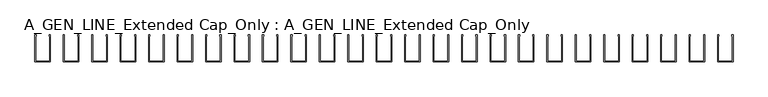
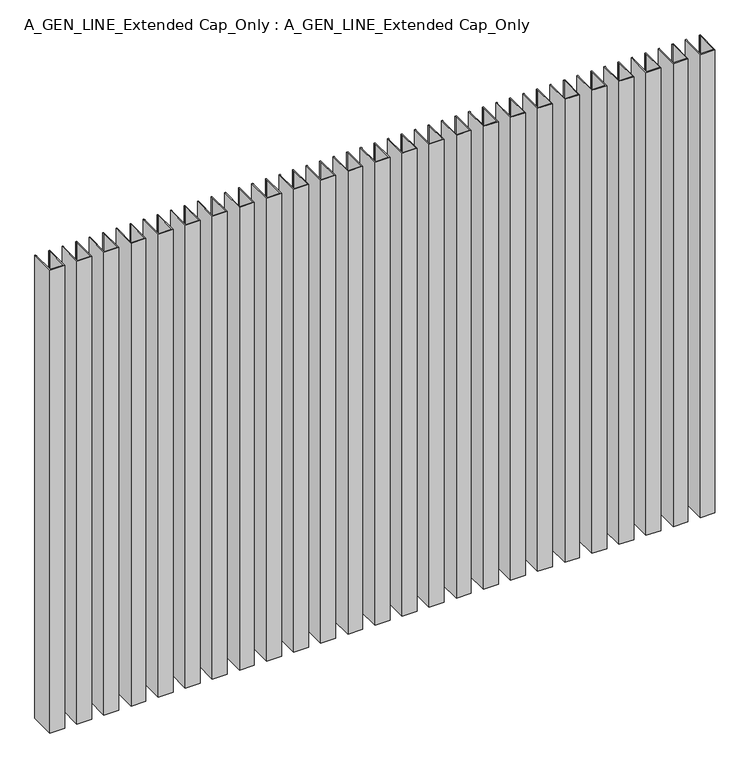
"""IFC4 building model written with IfcOpenShell, lengths in millimetres: proxy geometry, A_GEN_LINE_Extended Cap_Only : A_GEN_LINE_Extended Cap_Only."""

from ifc_helpers import new_model, si_unit, origin, origin_with_axes, place, context, project, spatial, polyline, outline, extrude, source, transform, mapped, element, save


def a_gen_line_extended_cap_only_a_gen_line_extended_cap_only_e9d753a0(model_context):
    return source(origin(), model_context, "Body", "SweptSolid", [
        extrude(outline(polyline([(1319.5969572, -58.2007192), (1319.5969572, -6.1), (1321.7459642, -6.1), (1321.7459642, -8.3419727), (1320.9969572, -8.5826662), (1320.9969572, -56.8007192), (1348.1969572, -56.8007192), (1348.1969572, -8.5826662), (1347.4479503, -8.3419727), (1347.4479503, -6.1), (1349.5969572, -6.1), (1349.5969572, -58.2007192), (1319.5969572, -58.2007192)])), origin_with_axes(), (0.0, 0.0, 1.0), 992.5516144),
        extrude(outline(polyline([(1264.5964579, -58.2007192), (1264.5964579, -6.1), (1266.7454648, -6.1), (1266.7454648, -8.3419727), (1265.9964579, -8.5826662), (1265.9964579, -56.8007192), (1293.1964579, -56.8007192), (1293.1964579, -8.5826662), (1292.4474509, -8.3419727), (1292.4474509, -6.1), (1294.5964579, -6.1), (1294.5964579, -58.2007192), (1264.5964579, -58.2007192)])), origin_with_axes(), (0.0, 0.0, 1.0), 992.5516144),
        extrude(outline(polyline([(1209.5959585, -58.2007192), (1209.5959585, -6.1), (1211.7449654, -6.1), (1211.7449654, -8.3419727), (1210.9959585, -8.5826662), (1210.9959585, -56.8007192), (1238.1959585, -56.8007192), (1238.1959585, -8.5826662), (1237.4469515, -8.3419727), (1237.4469515, -6.1), (1239.5959585, -6.1), (1239.5959585, -58.2007192), (1209.5959585, -58.2007192)])), origin_with_axes(), (0.0, 0.0, 1.0), 992.5516144),
        extrude(outline(polyline([(1154.5954591, -58.2007192), (1154.5954591, -6.1), (1156.744466, -6.1), (1156.744466, -8.3419727), (1155.9954591, -8.5826662), (1155.9954591, -56.8007192), (1183.1954591, -56.8007192), (1183.1954591, -8.5826662), (1182.4464521, -8.3419727), (1182.4464521, -6.1), (1184.5954591, -6.1), (1184.5954591, -58.2007192), (1154.5954591, -58.2007192)])), origin_with_axes(), (0.0, 0.0, 1.0), 992.5516144),
        extrude(outline(polyline([(1099.5949597, -58.2007192), (1099.5949597, -6.1), (1101.7439666, -6.1), (1101.7439666, -8.3419727), (1100.9949597, -8.5826662), (1100.9949597, -56.8007192), (1128.1949597, -56.8007192), (1128.1949597, -8.5826662), (1127.4459527, -8.3419727), (1127.4459527, -6.1), (1129.5949597, -6.1), (1129.5949597, -58.2007192), (1099.5949597, -58.2007192)])), origin_with_axes(), (0.0, 0.0, 1.0), 992.5516144),
        extrude(outline(polyline([(1044.5944603, -58.2007192), (1044.5944603, -6.1), (1046.7434673, -6.1), (1046.7434673, -8.3419727), (1045.9944603, -8.5826662), (1045.9944603, -56.8007192), (1073.1944603, -56.8007192), (1073.1944603, -8.5826662), (1072.4454533, -8.3419727), (1072.4454533, -6.1), (1074.5944603, -6.1), (1074.5944603, -58.2007192), (1044.5944603, -58.2007192)])), origin_with_axes(), (0.0, 0.0, 1.0), 992.5516144),
        extrude(outline(polyline([(989.5939609, -58.2007192), (989.5939609, -6.1), (991.7429679, -6.1), (991.7429679, -8.3419727), (990.9939609, -8.5826662), (990.9939609, -56.8007192), (1018.1939609, -56.8007192), (1018.1939609, -8.5826662), (1017.4449539, -8.3419727), (1017.4449539, -6.1), (1019.5939609, -6.1), (1019.5939609, -58.2007192), (989.5939609, -58.2007192)])), origin_with_axes(), (0.0, 0.0, 1.0), 992.5516144),
        extrude(outline(polyline([(934.5934615, -58.2007192), (934.5934615, -6.1), (936.7424685, -6.1), (936.7424685, -8.3419727), (935.9934615, -8.5826662), (935.9934615, -56.8007192), (963.1934615, -56.8007192), (963.1934615, -8.5826662), (962.4444546, -8.3419727), (962.4444546, -6.1), (964.5934615, -6.1), (964.5934615, -58.2007192), (934.5934615, -58.2007192)])), origin_with_axes(), (0.0, 0.0, 1.0), 992.5516144),
        extrude(outline(polyline([(879.5929621, -58.2007192), (879.5929621, -6.1), (881.7419691, -6.1), (881.7419691, -8.3419727), (880.9929621, -8.5826662), (880.9929621, -56.8007192), (908.1929621, -56.8007192), (908.1929621, -8.5826662), (907.4439552, -8.3419727), (907.4439552, -6.1), (909.5929621, -6.1), (909.5929621, -58.2007192), (879.5929621, -58.2007192)])), origin_with_axes(), (0.0, 0.0, 1.0), 992.5516144),
        extrude(outline(polyline([(824.5924627, -58.2007192), (824.5924627, -6.1), (826.7414697, -6.1), (826.7414697, -8.3419727), (825.9924627, -8.5826662), (825.9924627, -56.8007192), (853.1924627, -56.8007192), (853.1924627, -8.5826662), (852.4434558, -8.3419727), (852.4434558, -6.1), (854.5924627, -6.1), (854.5924627, -58.2007192), (824.5924627, -58.2007192)])), origin_with_axes(), (0.0, 0.0, 1.0), 992.5516144),
        extrude(outline(polyline([(769.5919633, -58.2007192), (769.5919633, -6.1), (771.7409703, -6.1), (771.7409703, -8.3419727), (770.9919633, -8.5826662), (770.9919633, -56.8007192), (798.1919633, -56.8007192), (798.1919633, -8.5826662), (797.4429564, -8.3419727), (797.4429564, -6.1), (799.5919633, -6.1), (799.5919633, -58.2007192), (769.5919633, -58.2007192)])), origin_with_axes(), (0.0, 0.0, 1.0), 992.5516144),
        extrude(outline(polyline([(714.5914639, -58.2007192), (714.5914639, -6.1), (716.7404709, -6.1), (716.7404709, -8.3419727), (715.9914639, -8.5826662), (715.9914639, -56.8007192), (743.1914639, -56.8007192), (743.1914639, -8.5826662), (742.442457, -8.3419727), (742.442457, -6.1), (744.5914639, -6.1), (744.5914639, -58.2007192), (714.5914639, -58.2007192)])), origin_with_axes(), (0.0, 0.0, 1.0), 992.5516144),
        extrude(outline(polyline([(659.5909646, -58.2007192), (659.5909646, -6.1), (661.7399715, -6.1), (661.7399715, -8.3419727), (660.9909646, -8.5826662), (660.9909646, -56.8007192), (688.1909646, -56.8007192), (688.1909646, -8.5826662), (687.4419576, -8.3419727), (687.4419576, -6.1), (689.5909646, -6.1), (689.5909646, -58.2007192), (659.5909646, -58.2007192)])), origin_with_axes(), (0.0, 0.0, 1.0), 992.5516144),
        extrude(outline(polyline([(604.5904652, -58.2007192), (604.5904652, -6.1), (606.7394721, -6.1), (606.7394721, -8.3419727), (605.9904652, -8.5826662), (605.9904652, -56.8007192), (633.1904652, -56.8007192), (633.1904652, -8.5826662), (632.4414582, -8.3419727), (632.4414582, -6.1), (634.5904652, -6.1), (634.5904652, -58.2007192), (604.5904652, -58.2007192)])), origin_with_axes(), (0.0, 0.0, 1.0), 992.5516144),
        extrude(outline(polyline([(549.5899658, -58.2007192), (549.5899658, -6.1), (551.7389727, -6.1), (551.7389727, -8.3419727), (550.9899658, -8.5826662), (550.9899658, -56.8007192), (578.1899658, -56.8007192), (578.1899658, -8.5826662), (577.4409588, -8.3419727), (577.4409588, -6.1), (579.5899658, -6.1), (579.5899658, -58.2007192), (549.5899658, -58.2007192)])), origin_with_axes(), (0.0, 0.0, 1.0), 992.5516144),
        extrude(outline(polyline([(494.5894664, -58.2007192), (494.5894664, -6.1), (496.7384733, -6.1), (496.7384733, -8.3419727), (495.9894664, -8.5826662), (495.9894664, -56.8007192), (523.1894664, -56.8007192), (523.1894664, -8.5826662), (522.4404594, -8.3419727), (522.4404594, -6.1), (524.5894664, -6.1), (524.5894664, -58.2007192), (494.5894664, -58.2007192)])), origin_with_axes(), (0.0, 0.0, 1.0), 992.5516144),
        extrude(outline(polyline([(439.588967, -58.2007192), (439.588967, -6.1), (441.737974, -6.1), (441.737974, -8.3419727), (440.988967, -8.5826662), (440.988967, -56.8007192), (468.188967, -56.8007192), (468.188967, -8.5826662), (467.43996, -8.3419727), (467.43996, -6.1), (469.588967, -6.1), (469.588967, -58.2007192), (439.588967, -58.2007192)])), origin_with_axes(), (0.0, 0.0, 1.0), 992.5516144),
        extrude(outline(polyline([(384.5884676, -58.2007192), (384.5884676, -6.1), (386.7374746, -6.1), (386.7374746, -8.3419727), (385.9884676, -8.5826662), (385.9884676, -56.8007192), (413.1884676, -56.8007192), (413.1884676, -8.5826662), (412.4394606, -8.3419727), (412.4394606, -6.1), (414.5884676, -6.1), (414.5884676, -58.2007192), (384.5884676, -58.2007192)])), origin_with_axes(), (0.0, 0.0, 1.0), 992.5516144),
        extrude(outline(polyline([(329.5879682, -58.2007192), (329.5879682, -6.1), (331.7369752, -6.1), (331.7369752, -8.3419727), (330.9879682, -8.5826662), (330.9879682, -56.8007192), (358.1879682, -56.8007192), (358.1879682, -8.5826662), (357.4389613, -8.3419727), (357.4389613, -6.1), (359.5879682, -6.1), (359.5879682, -58.2007192), (329.5879682, -58.2007192)])), origin_with_axes(), (0.0, 0.0, 1.0), 992.5516144),
        extrude(outline(polyline([(274.5874688, -58.2007192), (274.5874688, -6.1), (276.7364758, -6.1), (276.7364758, -8.3419727), (275.9874688, -8.5826662), (275.9874688, -56.8007192), (303.1874688, -56.8007192), (303.1874688, -8.5826662), (302.4384619, -8.3419727), (302.4384619, -6.1), (304.5874688, -6.1), (304.5874688, -58.2007192), (274.5874688, -58.2007192)])), origin_with_axes(), (0.0, 0.0, 1.0), 992.5516144),
        extrude(outline(polyline([(219.5869694, -58.2007192), (219.5869694, -6.1), (221.7359764, -6.1), (221.7359764, -8.3419727), (220.9869694, -8.5826662), (220.9869694, -56.8007192), (248.1869694, -56.8007192), (248.1869694, -8.5826662), (247.4379625, -8.3419727), (247.4379625, -6.1), (249.5869694, -6.1), (249.5869694, -58.2007192), (219.5869694, -58.2007192)])), origin_with_axes(), (0.0, 0.0, 1.0), 992.5516144),
        extrude(outline(polyline([(164.58647, -58.2007192), (164.58647, -6.1), (166.735477, -6.1), (166.735477, -8.3419727), (165.98647, -8.5826662), (165.98647, -56.8007192), (193.18647, -56.8007192), (193.18647, -8.5826662), (192.4374631, -8.3419727), (192.4374631, -6.1), (194.58647, -6.1), (194.58647, -58.2007192), (164.58647, -58.2007192)])), origin_with_axes(), (0.0, 0.0, 1.0), 992.5516144),
        extrude(outline(polyline([(109.5859707, -58.2007192), (109.5859707, -6.1), (111.7349776, -6.1), (111.7349776, -8.3419727), (110.9859707, -8.5826662), (110.9859707, -56.8007192), (138.1859707, -56.8007192), (138.1859707, -8.5826662), (137.4369637, -8.3419727), (137.4369637, -6.1), (139.5859707, -6.1), (139.5859707, -58.2007192), (109.5859707, -58.2007192)])), origin_with_axes(), (0.0, 0.0, 1.0), 992.5516144),
        extrude(outline(polyline([(54.5854713, -58.2007192), (54.5854713, -6.1), (56.7344782, -6.1), (56.7344782, -8.3419727), (55.9854713, -8.5826662), (55.9854713, -56.8007192), (83.1854713, -56.8007192), (83.1854713, -8.5826662), (82.4364643, -8.3419727), (82.4364643, -6.1), (84.5854713, -6.1), (84.5854713, -58.2007192), (54.5854713, -58.2007192)])), origin_with_axes(), (0.0, 0.0, 1.0), 992.5516144),
        extrude(outline(polyline([(-0.4150281, -58.2007192), (-0.4150281, -6.1), (1.7339788, -6.1), (1.7339788, -8.3419727), (0.9849719, -8.5826662), (0.9849719, -56.8007192), (28.1849719, -56.8007192), (28.1849719, -8.5826662), (27.4359649, -8.3419727), (27.4359649, -6.1), (29.5849719, -6.1), (29.5849719, -58.2007192), (-0.4150281, -58.2007192)])), origin_with_axes(), (0.0, 0.0, 1.0), 992.5516144),
    ])


if __name__ == "__main__":
    model = new_model("IFC4")
    model_context = context("Model", 3, world=origin())
    ifc_project = project(units=[si_unit("LENGTHUNIT", "METRE", prefix="MILLI")], contexts=[model_context])
    site = spatial("IfcSite", under=ifc_project)
    building = spatial("IfcBuilding", under=site)
    placement = place(None, origin())
    a_gen_line_extended_cap_only_a_gen_line_extended_cap_only_shape = a_gen_line_extended_cap_only_a_gen_line_extended_cap_only_e9d753a0(model_context)
    element("IfcBuildingElementProxy", 1, Name="A_GEN_LINE_Extended Cap_Only : A_GEN_LINE_Extended Cap_Only", ObjectType="A_GEN_LINE_Extended Cap_Only : A_GEN_LINE_Extended Cap_Only", at=placement, inside=building, context=model_context, shape_type="MappedRepresentation", body=[
        mapped(a_gen_line_extended_cap_only_a_gen_line_extended_cap_only_shape, transform((0.0, 0.0, 0.0), x_axis=(1.0, 0.0, 0.0), y_axis=(0.0, 1.0, 0.0), z_axis=(0.0, 0.0, 1.0))),
    ])
    save(model, "model.ifc")
